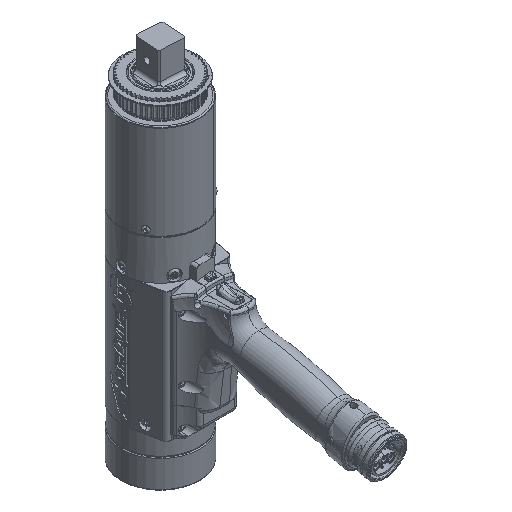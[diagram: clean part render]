
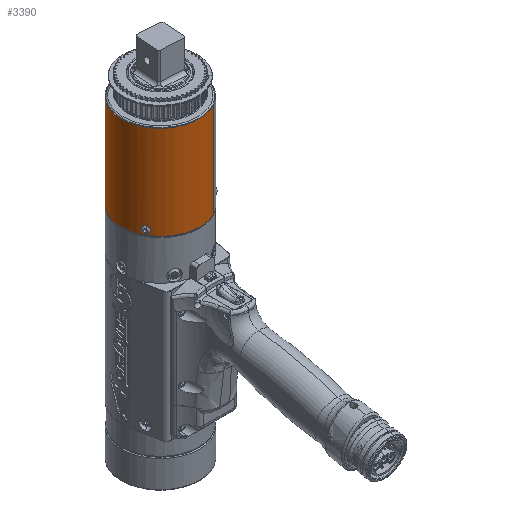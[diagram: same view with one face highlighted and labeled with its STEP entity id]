
A CAD part, isometric view. The second image highlights one B-rep face of the part: STEP entity #3390.
In plain terms, the highlighted cylindrical face has radius 38.735 mm (diameter 77.47 mm), a partial arc.
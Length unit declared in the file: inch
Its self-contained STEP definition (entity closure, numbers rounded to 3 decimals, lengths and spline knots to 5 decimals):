
#431 = CARTESIAN_POINT ( 'NONE',  ( -1.28552, -0.82041, 1.74901 ) ) ;
#1521 = B_SPLINE_CURVE_WITH_KNOTS ( 'NONE', 3,
 ( #73766, #43528, #71799, #91980, #92628, #114119, #82511, #51623, #9911, #62954, #103991, #22000, #60992, #71109, #73121, #124810, #132946, #84476, #431, #122846, #112131, #1778, #41518, #42860, #61640, #72452, #112779, #11907 ),
 .UNSPECIFIED., .F., .F.,
 ( 4, 2, 2, 2, 2, 2, 2, 2, 2, 2, 2, 2, 2, 4 ),
 ( 0.00619, 0.00697, 0.00774, 0.00813, 0.00852, 0.0089, 0.00929, 0.00968, 0.01007, 0.01045, 0.01084, 0.01123, 0.01161, 0.01239 ),
 .UNSPECIFIED. ) ;
#1778 = CARTESIAN_POINT ( 'NONE',  ( -1.29414, -0.80675, 1.72931 ) ) ;
#2415 = CARTESIAN_POINT ( 'NONE',  ( -1.35796, -0.69395, 1.79307 ) ) ;
#3390 = ADVANCED_FACE ( 'NONE', ( #65596, #55547 ), #74449, .T. ) ;
#4597 = ORIENTED_EDGE ( 'NONE', *, *, #124412, .F. ) ;
#5068 = CARTESIAN_POINT ( 'NONE',  ( -1.34912, -0.711, 1.83951 ) ) ;
#6892 = DIRECTION ( 'NONE',  ( 0., 0., 1. ) ) ;
#7278 = ORIENTED_EDGE ( 'NONE', *, *, #68784, .T. ) ;
#9007 = EDGE_LOOP ( 'NONE', ( #9983, #4597, #88066, #130193 ) ) ;
#9911 = CARTESIAN_POINT ( 'NONE',  ( -1.28426, -0.82238, 1.82268 ) ) ;
#9983 = ORIENTED_EDGE ( 'NONE', *, *, #74046, .F. ) ;
#10369 = CIRCLE ( 'NONE', #55145, 1.525 ) ;
#11907 = CARTESIAN_POINT ( 'NONE',  ( -1.32069, -0.7625, 1.71003 ) ) ;
#12006 = CARTESIAN_POINT ( 'NONE',  ( -1.32069, -0.7625, 1.71003 ) ) ;
#14523 = CARTESIAN_POINT ( 'NONE',  ( -1.33983, -0.72834, 1.85568 ) ) ;
#15188 = CARTESIAN_POINT ( 'NONE',  ( -1.3207, -0.76248, 1.86602 ) ) ;
#16529 = CARTESIAN_POINT ( 'NONE',  ( -1.35436, -0.70096, 1.82255 ) ) ;
#17484 = DIRECTION ( 'NONE',  ( 0., 0., 1. ) ) ;
#17521 = CARTESIAN_POINT ( 'NONE',  ( 0., 0., 5.24553 ) ) ;
#18249 = CARTESIAN_POINT ( 'NONE',  ( 0., 0., 1.55803 ) ) ;
#21429 = CARTESIAN_POINT ( 'NONE',  ( 0.7625, -1.32069, 1.55803 ) ) ;
#21997 = CARTESIAN_POINT ( 'NONE',  ( -1.34383, -0.72095, 1.72598 ) ) ;
#22000 = CARTESIAN_POINT ( 'NONE',  ( -1.28024, -0.82862, 1.79831 ) ) ;
#22693 = VERTEX_POINT ( 'NONE', #44250 ) ;
#23945 = CARTESIAN_POINT ( 'NONE',  ( -1.33068, -0.74495, 1.71251 ) ) ;
#25276 = DIRECTION ( 'NONE',  ( 0.5, -0.866, 0. ) ) ;
#32304 = VERTEX_POINT ( 'NONE', #132178 ) ;
#36963 = CARTESIAN_POINT ( 'NONE',  ( 0.7625, -1.32069, 1.55803 ) ) ;
#37174 = LINE ( 'NONE', #98998, #109302 ) ;
#37976 = CARTESIAN_POINT ( 'NONE',  ( -1.32325, -0.75807, 1.86602 ) ) ;
#40378 = B_SPLINE_CURVE_WITH_KNOTS ( 'NONE', 3,
 ( #114116, #114765, #104637, #23945, #83817, #64901, #64271, #21997, #103988, #105948, #105295, #44844, #94592, #2415, #43525, #84473, #125479, #16529, #107277, #108613, #5068, #130098, #57505, #14523, #98521, #87125, #120009, #56829, #37976, #15188 ),
 .UNSPECIFIED., .F., .F.,
 ( 4, 2, 2, 2, 2, 2, 2, 2, 2, 2, 2, 2, 2, 2, 4 ),
 ( 0., 0.00039, 0.00077, 0.00116, 0.00155, 0.00232, 0.0031, 0.00348, 0.00387, 0.00426, 0.00465, 0.00503, 0.00542, 0.00581, 0.00619 ),
 .UNSPECIFIED. ) ;
#41518 = CARTESIAN_POINT ( 'NONE',  ( -1.29621, -0.80342, 1.72608 ) ) ;
#42860 = CARTESIAN_POINT ( 'NONE',  ( -1.30067, -0.79617, 1.72038 ) ) ;
#43525 = CARTESIAN_POINT ( 'NONE',  ( -1.35773, -0.6944, 1.79824 ) ) ;
#43528 = CARTESIAN_POINT ( 'NONE',  ( -1.31561, -0.77129, 1.86603 ) ) ;
#44250 = CARTESIAN_POINT ( 'NONE',  ( -1.3207, -0.76248, 1.86602 ) ) ;
#44844 = CARTESIAN_POINT ( 'NONE',  ( -1.35703, -0.69579, 1.76754 ) ) ;
#47021 = CIRCLE ( 'NONE', #117797, 1.525 ) ;
#51623 = CARTESIAN_POINT ( 'NONE',  ( -1.28556, -0.82035, 1.82715 ) ) ;
#53666 = VERTEX_POINT ( 'NONE', #106261 ) ;
#55145 = AXIS2_PLACEMENT_3D ( 'NONE', #17521, #119003, #119666 ) ;
#55547 = FACE_BOUND ( 'NONE', #93843, .T. ) ;
#56829 = CARTESIAN_POINT ( 'NONE',  ( -1.32581, -0.75358, 1.86551 ) ) ;
#57505 = CARTESIAN_POINT ( 'NONE',  ( -1.34385, -0.72091, 1.85003 ) ) ;
#57795 = LINE ( 'NONE', #36963, #123988 ) ;
#58278 = EDGE_CURVE ( 'NONE', #59736, #53666, #10369, .T. ) ;
#59736 = VERTEX_POINT ( 'NONE', #110401 ) ;
#60992 = CARTESIAN_POINT ( 'NONE',  ( -1.27996, -0.82905, 1.79325 ) ) ;
#61640 = CARTESIAN_POINT ( 'NONE',  ( -1.30304, -0.79229, 1.71795 ) ) ;
#62954 = CARTESIAN_POINT ( 'NONE',  ( -1.28214, -0.82568, 1.81324 ) ) ;
#64271 = CARTESIAN_POINT ( 'NONE',  ( -1.3398, -0.72842, 1.72032 ) ) ;
#64901 = CARTESIAN_POINT ( 'NONE',  ( -1.33765, -0.73235, 1.71793 ) ) ;
#65596 = FACE_OUTER_BOUND ( 'NONE', #9007, .T. ) ;
#68784 = EDGE_CURVE ( 'NONE', #22693, #94144, #1521, .T. ) ;
#71109 = CARTESIAN_POINT ( 'NONE',  ( -1.27996, -0.82906, 1.78296 ) ) ;
#71799 = CARTESIAN_POINT ( 'NONE',  ( -1.31039, -0.78013, 1.86399 ) ) ;
#72452 = CARTESIAN_POINT ( 'NONE',  ( -1.31032, -0.78024, 1.7121 ) ) ;
#72654 = EDGE_CURVE ( 'NONE', #127389, #59736, #57795, .T. ) ;
#73121 = CARTESIAN_POINT ( 'NONE',  ( -1.28023, -0.82863, 1.77787 ) ) ;
#73766 = CARTESIAN_POINT ( 'NONE',  ( -1.3207, -0.76248, 1.86602 ) ) ;
#74046 = EDGE_CURVE ( 'NONE', #32304, #53666, #37174, .T. ) ;
#74449 = CYLINDRICAL_SURFACE ( 'NONE', #123486, 1.525 ) ;
#75123 = CARTESIAN_POINT ( 'NONE',  ( 0., 0., 1.55803 ) ) ;
#77063 = DIRECTION ( 'NONE',  ( 0., 0., 1. ) ) ;
#79820 = ORIENTED_EDGE ( 'NONE', *, *, #130220, .T. ) ;
#82511 = CARTESIAN_POINT ( 'NONE',  ( -1.2886, -0.81556, 1.83563 ) ) ;
#83817 = CARTESIAN_POINT ( 'NONE',  ( -1.33309, -0.74062, 1.71401 ) ) ;
#84473 = CARTESIAN_POINT ( 'NONE',  ( -1.35682, -0.69617, 1.80824 ) ) ;
#84476 = CARTESIAN_POINT ( 'NONE',  ( -1.28423, -0.82243, 1.75349 ) ) ;
#87125 = CARTESIAN_POINT ( 'NONE',  ( -1.33309, -0.74062, 1.86204 ) ) ;
#88066 = ORIENTED_EDGE ( 'NONE', *, *, #72654, .T. ) ;
#90833 = DIRECTION ( 'NONE',  ( -0.5, 0.866, 0. ) ) ;
#91980 = CARTESIAN_POINT ( 'NONE',  ( -1.30068, -0.79621, 1.85622 ) ) ;
#92628 = CARTESIAN_POINT ( 'NONE',  ( -1.2961, -0.80362, 1.85042 ) ) ;
#93843 = EDGE_LOOP ( 'NONE', ( #79820, #7278 ) ) ;
#94144 = VERTEX_POINT ( 'NONE', #12006 ) ;
#94592 = CARTESIAN_POINT ( 'NONE',  ( -1.35796, -0.69396, 1.77781 ) ) ;
#98521 = CARTESIAN_POINT ( 'NONE',  ( -1.33765, -0.73235, 1.85812 ) ) ;
#98998 = CARTESIAN_POINT ( 'NONE',  ( -0.7625, 1.32069, 1.55803 ) ) ;
#100209 = DIRECTION ( 'NONE',  ( 0., 0., -1. ) ) ;
#103988 = CARTESIAN_POINT ( 'NONE',  ( -1.34572, -0.71741, 1.72928 ) ) ;
#103991 = CARTESIAN_POINT ( 'NONE',  ( -1.28132, -0.82695, 1.80828 ) ) ;
#104637 = CARTESIAN_POINT ( 'NONE',  ( -1.32578, -0.75363, 1.71053 ) ) ;
#105295 = CARTESIAN_POINT ( 'NONE',  ( -1.35346, -0.70271, 1.74877 ) ) ;
#105948 = CARTESIAN_POINT ( 'NONE',  ( -1.35078, -0.70787, 1.74007 ) ) ;
#106261 = CARTESIAN_POINT ( 'NONE',  ( -0.7625, 1.32069, 5.24553 ) ) ;
#107277 = CARTESIAN_POINT ( 'NONE',  ( -1.35323, -0.70313, 1.82712 ) ) ;
#108613 = CARTESIAN_POINT ( 'NONE',  ( -1.35062, -0.70814, 1.83557 ) ) ;
#109302 = VECTOR ( 'NONE', #6892, 39.37008 ) ;
#110401 = CARTESIAN_POINT ( 'NONE',  ( 0.7625, -1.32069, 5.24553 ) ) ;
#112131 = CARTESIAN_POINT ( 'NONE',  ( -1.29031, -0.81285, 1.73652 ) ) ;
#112779 = CARTESIAN_POINT ( 'NONE',  ( -1.31553, -0.77143, 1.71003 ) ) ;
#114116 = CARTESIAN_POINT ( 'NONE',  ( -1.32069, -0.7625, 1.71003 ) ) ;
#114119 = CARTESIAN_POINT ( 'NONE',  ( -1.29036, -0.81277, 1.83964 ) ) ;
#114765 = CARTESIAN_POINT ( 'NONE',  ( -1.32327, -0.75804, 1.71003 ) ) ;
#117797 = AXIS2_PLACEMENT_3D ( 'NONE', #18249, #100209, #90833 ) ;
#119003 = DIRECTION ( 'NONE',  ( 0., 0., -1. ) ) ;
#119666 = DIRECTION ( 'NONE',  ( -0.5, 0.866, 0. ) ) ;
#120009 = CARTESIAN_POINT ( 'NONE',  ( -1.33072, -0.74487, 1.86351 ) ) ;
#122846 = CARTESIAN_POINT ( 'NONE',  ( -1.28855, -0.81564, 1.74054 ) ) ;
#123486 = AXIS2_PLACEMENT_3D ( 'NONE', #75123, #77063, #25276 ) ;
#123988 = VECTOR ( 'NONE', #17484, 39.37008 ) ;
#124412 = EDGE_CURVE ( 'NONE', #127389, #32304, #47021, .T. ) ;
#124810 = CARTESIAN_POINT ( 'NONE',  ( -1.2813, -0.82698, 1.7679 ) ) ;
#125479 = CARTESIAN_POINT ( 'NONE',  ( -1.35615, -0.69749, 1.81311 ) ) ;
#127389 = VERTEX_POINT ( 'NONE', #21429 ) ;
#130098 = CARTESIAN_POINT ( 'NONE',  ( -1.34571, -0.71743, 1.84679 ) ) ;
#130193 = ORIENTED_EDGE ( 'NONE', *, *, #58278, .T. ) ;
#130220 = EDGE_CURVE ( 'NONE', #94144, #22693, #40378, .T. ) ;
#132178 = CARTESIAN_POINT ( 'NONE',  ( -0.7625, 1.32069, 1.55803 ) ) ;
#132946 = CARTESIAN_POINT ( 'NONE',  ( -1.28211, -0.82572, 1.76295 ) ) ;
